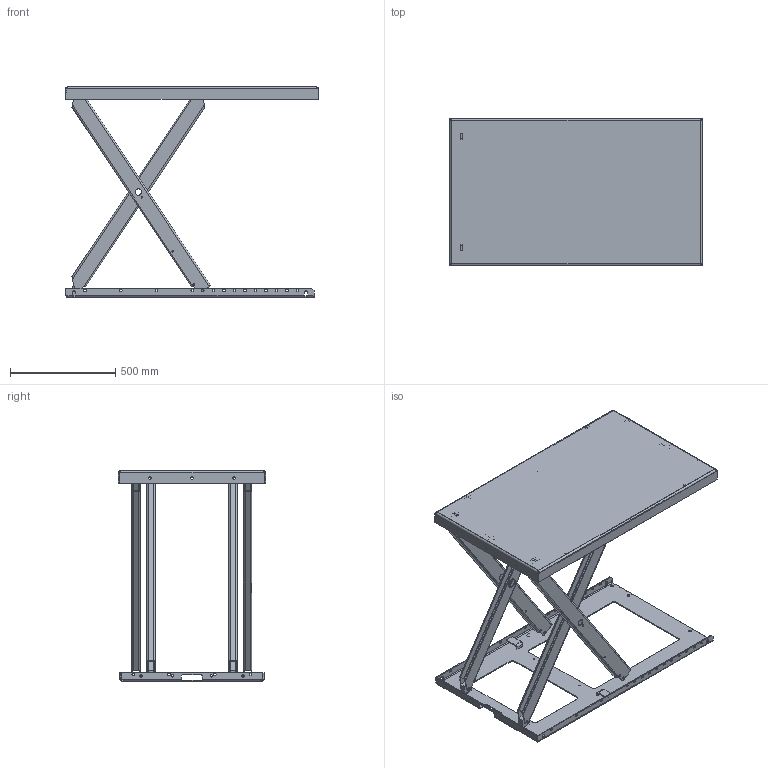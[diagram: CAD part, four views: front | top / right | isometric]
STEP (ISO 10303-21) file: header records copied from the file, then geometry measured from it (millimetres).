
FILE_DESCRIPTION(/* description */ ('TL 1001'),/* implementation_level */ '2;1');
FILE_NAME(/* name */ 'C:\Autodesk_VaultWork\Ritningar\30000-39999\33000-33999\33022_Riased.stp',/* time_stamp */ '2019-10-01T11:30:16+02:00',/* author */ ('johso'),/* organization */ (''),/* preprocessor_version */ 'ST-DEVELOPER v16.5',/* originating_system */ 'Autodesk Inventor 2017',/* authorisation */ '');
FILE_SCHEMA (('AUTOMOTIVE_DESIGN { 1 0 10303 214 3 1 1 }'));
Length unit declared in the file: millimetre
Products named in the file (17): 33022.tmp; 34840; 34840-1; 44681; 34977; 43785; 32903; 34827; 34815; 34816; 33023; 36465; 45258; 42394; 83212; 70015; 42513
Assembly tree (26 placements, depth 4):
  33022.tmp
    34840
      34840-1
      45258  x2
      44681  x2
    34977
      43785
      32903
        34827  x2
      34815
        34816  x2
    33023
      36465
      45258  x2
      42394  x2
      83212  x4
    70015
    42513
Bounding box: 1200.1 x 700 x 1000 mm (x, y, z)
Volume: 11536417.5 mm3; surface area: 5048816.2 mm2
Topology: 20 solids, 20 shells, 1012 faces, 2785 edges, 1818 vertices
Faces by surface type: plane 559, cylinder 372, bspline 44, cone 37
Full cylindrical faces by diameter (mm): 6.8 x4, 7.4 x6, 8 x4, 10 x4, 10.2 x16, 10.5 x4, 11 x1, 11.63 x4, 12.5 x6, 13 x6, 16 x1, 20 x1, 20.1 x4, 25 x1, 30.2 x4, 42.8 x4
Entity records: 29712 total; most frequent: CARTESIAN_POINT 9342, ORIENTED_EDGE 4176, DIRECTION 3996, EDGE_CURVE 2088, LINE 1420, VECTOR 1420, VERTEX_POINT 1392, AXIS2_PLACEMENT_3D 1288
